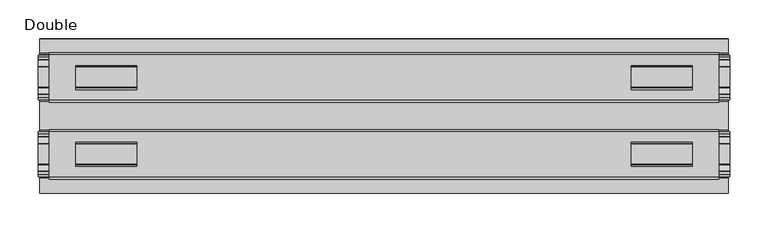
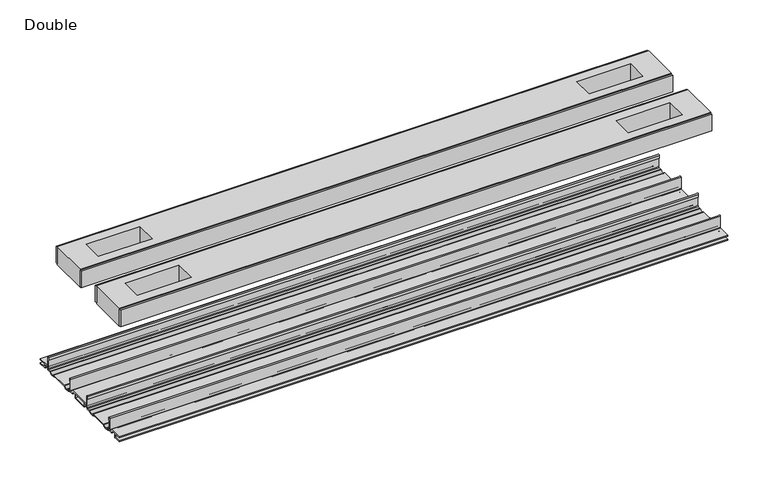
"""IFC4 building model written with IfcOpenShell, lengths in millimetres: proxy geometry, Frame-Teknion-FHCRA-Horizontal_Rail-R2022 : Double."""

from ifc_helpers import new_model, si_unit, point, frame, frame_2d, origin, place, context, project, spatial, polyline, circle_curve, trimmed, segment, composite_curve, outline, extrude, source, transform, mapped, element, save


def double_14c457a7(model_context):
    return source(origin(), model_context, "Body", "SweptSolid", [
        extrude(outline(composite_curve([segment(polyline([(-78.8225461, -7.7516037), (-78.8225461, 9.8607558)]), True, "CONTINUOUS"), segment(trimmed(circle_curve(frame_2d((-77.6033482, 9.8607558)), 1.2191979), [point((-78.8225461, 9.8607558))], [point((-76.3841503, 9.8607558))], False, "CARTESIAN"), True, "CONTINUOUS"), segment(polyline([(-76.3841503, 9.8607558), (-76.3841503, 5.9999563), (-77.6643269, 5.9999563), (-77.6643269, -7.7516037)]), True, "CONTINUOUS"), segment(trimmed(circle_curve(frame_2d((-76.6483061, -7.7516037)), 1.0160208), [point((-77.6643269, -7.7516037))], [point((-76.6548232, -8.7676036))], True, "CARTESIAN"), True, "CONTINUOUS"), segment(polyline([(-76.6548232, -8.7676036), (-72.7118726, -8.7676036), (-71.7985108, -8.968753)]), True, "CONTINUOUS"), segment(trimmed(circle_curve(frame_2d((-67.7735521, -6.1259382)), 4.9276657), [point((-71.7985108, -8.968753))], [point((-63.7485934, -8.968753))], True, "CARTESIAN"), True, "CONTINUOUS"), segment(polyline([(-63.7485934, -8.968753), (-62.8352226, -8.7676036), (-36.7962778, -8.7676036), (-35.8829069, -8.968753)]), True, "CONTINUOUS"), segment(trimmed(circle_curve(frame_2d((-31.8579482, -6.1259382)), 4.9276657), [point((-35.8829069, -8.968753))], [point((-27.8329895, -8.968753))], True, "CARTESIAN"), True, "CONTINUOUS"), segment(polyline([(-27.8329895, -8.968753), (-26.9196277, -8.7676036), (-22.9766772, -8.7676036)]), True, "CONTINUOUS"), segment(trimmed(circle_curve(frame_2d((-22.9831943, -7.7516037)), 1.0160208), [point((-22.9766772, -8.7676036))], [point((-21.9671735, -7.7516037))], True, "CARTESIAN"), True, "CONTINUOUS"), segment(polyline([(-21.9671735, -7.7516037), (-21.9671735, 5.9999563), (-23.2473501, 5.9999563), (-23.2473501, 9.8607558)]), True, "CONTINUOUS"), segment(trimmed(circle_curve(frame_2d((-22.0281522, 9.8607558)), 1.2191979), [point((-23.2473501, 9.8607558))], [point((-20.8089542, 9.8607558))], False, "CARTESIAN"), True, "CONTINUOUS"), segment(polyline([(-20.8089542, 9.8607558), (-20.8089542, -7.7516037)]), True, "CONTINUOUS"), segment(trimmed(circle_curve(frame_2d((-22.9831943, -7.7516037)), 2.17424), [point((-20.8089542, -7.7516037))], [point((-22.9831943, -9.9258438))], False, "CARTESIAN"), True, "CONTINUOUS"), segment(polyline([(-22.9831943, -9.9258438), (-27.274181, -9.9258438)]), True, "CONTINUOUS"), segment(trimmed(circle_curve(frame_2d((-31.8545955, -6.4800016)), 5.7318431), [point((-27.274181, -9.9258438))], [point((-36.43501, -9.9258438))], False, "CARTESIAN"), True, "CONTINUOUS"), segment(polyline([(-36.43501, -9.9258438), (-63.1964904, -9.9258438)]), True, "CONTINUOUS"), segment(trimmed(circle_curve(frame_2d((-67.7769049, -6.4800016)), 5.7318431), [point((-63.1964904, -9.9258438))], [point((-72.3573194, -9.9258438))], False, "CARTESIAN"), True, "CONTINUOUS"), segment(polyline([(-72.3573194, -9.9258438), (-76.6483061, -9.9258438)]), True, "CONTINUOUS"), segment(trimmed(circle_curve(frame_2d((-76.6483061, -7.7516037)), 2.17424), [point((-76.6483061, -9.9258438))], [point((-78.8225461, -7.7516037))], False, "CARTESIAN"), True, "CONTINUOUS")], self_intersect=False)), frame((-448.9044872, 0.0, 0.0), z_axis=(1.0, 0.0, 0.0), x_axis=(0.0, 1.0, 0.0)), (0.0, 0.0, 1.0), 897.8089744),
        extrude(outline(composite_curve([segment(trimmed(circle_curve(frame_2d((77.0293057, -7.7516037)), 2.17424), [point((79.2035458, -7.7516037))], [point((77.0293057, -9.9258438))], False, "CARTESIAN"), True, "CONTINUOUS"), segment(polyline([(77.0293057, -9.9258438), (72.738319, -9.9258438)]), True, "CONTINUOUS"), segment(trimmed(circle_curve(frame_2d((68.1579045, -6.4800016)), 5.7318431), [point((72.738319, -9.9258438))], [point((63.57749, -9.9258438))], False, "CARTESIAN"), True, "CONTINUOUS"), segment(polyline([(63.57749, -9.9258438), (36.8160096, -9.9258438)]), True, "CONTINUOUS"), segment(trimmed(circle_curve(frame_2d((32.2355951, -6.4800016)), 5.7318431), [point((36.8160096, -9.9258438))], [point((27.6551806, -9.9258438))], False, "CARTESIAN"), True, "CONTINUOUS"), segment(polyline([(27.6551806, -9.9258438), (23.3641939, -9.9258438)]), True, "CONTINUOUS"), segment(trimmed(circle_curve(frame_2d((23.3641939, -7.7516037)), 2.17424), [point((23.3641939, -9.9258438))], [point((21.1899539, -7.7516037))], False, "CARTESIAN"), True, "CONTINUOUS"), segment(polyline([(21.1899539, -7.7516037), (21.1899539, 9.8607558)]), True, "CONTINUOUS"), segment(trimmed(circle_curve(frame_2d((22.4091518, 9.8607558)), 1.2191979), [point((21.1899539, 9.8607558))], [point((23.6283497, 9.8607558))], False, "CARTESIAN"), True, "CONTINUOUS"), segment(polyline([(23.6283497, 9.8607558), (23.6283497, 5.9999563), (22.3481731, 5.9999563), (22.3481731, -7.7516037)]), True, "CONTINUOUS"), segment(trimmed(circle_curve(frame_2d((23.3641939, -7.7516037)), 1.0160208), [point((22.3481731, -7.7516037))], [point((23.3576768, -8.7676036))], True, "CARTESIAN"), True, "CONTINUOUS"), segment(polyline([(23.3576768, -8.7676036), (27.3006274, -8.7676036), (28.2139892, -8.968753)]), True, "CONTINUOUS"), segment(trimmed(circle_curve(frame_2d((32.2389479, -6.1259382)), 4.9276657), [point((28.2139892, -8.968753))], [point((36.2639066, -8.968753))], True, "CARTESIAN"), True, "CONTINUOUS"), segment(polyline([(36.2639066, -8.968753), (37.1772774, -8.7676036), (63.2162222, -8.7676036), (64.1295931, -8.968753)]), True, "CONTINUOUS"), segment(trimmed(circle_curve(frame_2d((68.1545518, -6.1259382)), 4.9276657), [point((64.1295931, -8.968753))], [point((72.1795105, -8.968753))], True, "CARTESIAN"), True, "CONTINUOUS"), segment(polyline([(72.1795105, -8.968753), (73.0928723, -8.7676036), (77.0358228, -8.7676036)]), True, "CONTINUOUS"), segment(trimmed(circle_curve(frame_2d((77.0293057, -7.7516037)), 1.0160208), [point((77.0358228, -8.7676036))], [point((78.0453265, -7.7516037))], True, "CARTESIAN"), True, "CONTINUOUS"), segment(polyline([(78.0453265, -7.7516037), (78.0453265, 5.9999563), (76.7651499, 5.9999563), (76.7651499, 9.8607558)]), True, "CONTINUOUS"), segment(trimmed(circle_curve(frame_2d((77.9843478, 9.8607558)), 1.2191979), [point((76.7651499, 9.8607558))], [point((79.2035458, 9.8607558))], False, "CARTESIAN"), True, "CONTINUOUS"), segment(polyline([(79.2035458, 9.8607558), (79.2035458, -7.7516037)]), True, "CONTINUOUS")], self_intersect=False)), frame((-448.9044872, 0.0, 0.0), z_axis=(1.0, 0.0, 0.0), x_axis=(0.0, 1.0, 0.0)), (0.0, 0.0, 1.0), 897.8089744),
        extrude(outline(polyline([(434.8455963, -78.8225461), (434.8455963, -81.9975522), (-434.8455963, -81.9975522), (-434.8455963, -78.8225461), (434.8455963, -78.8225461)])), frame((0.0, 0.0, 149.8401622), z_axis=(0.0, 0.0, 1.0), x_axis=(1.0, 0.0, 0.0)), (0.0, 0.0, 1.0), 25.3999939),
        extrude(outline(polyline([(434.8455963, -17.6339482), (434.8455963, -20.8089542), (-434.8455963, -20.8089542), (-434.8455963, -17.6339482), (434.8455963, -17.6339482)])), frame((0.0, 0.0, 149.8401622), z_axis=(0.0, 0.0, 1.0), x_axis=(1.0, 0.0, 0.0)), (0.0, 0.0, 1.0), 25.3999939),
        extrude(outline(polyline([(434.8455963, 21.1899493), (434.8455963, 18.0149501), (-434.8455963, 18.0149501), (-434.8455963, 21.1899493), (434.8455963, 21.1899493)])), frame((0.0, 0.0, 149.8401622), z_axis=(0.0, 0.0, 1.0), x_axis=(1.0, 0.0, 0.0)), (0.0, 0.0, 1.0), 25.3999939),
        extrude(outline(polyline([(434.8455963, 82.3785496), (434.8455963, 79.2035503), (-434.8455963, 79.2035503), (-434.8455963, 82.3785496), (434.8455963, 82.3785496)])), frame((0.0, 0.0, 149.8401622), z_axis=(0.0, 0.0, 1.0), x_axis=(1.0, 0.0, 0.0)), (0.0, 0.0, 1.0), 25.3999939),
        extrude(outline(polyline([(434.8455963, 79.2035503), (434.8455963, 21.1899493), (-434.8455963, 21.1899493), (-434.8455963, 79.2035503), (434.8455963, 79.2035503)]), holes=[polyline([(400.4285837, 65.3097536), (321.3837719, 65.3097536), (321.3837719, 34.3217468), (400.4285837, 34.3217468), (400.4285837, 65.3097536)]), polyline([(-400.4285837, 65.3097536), (-400.4285837, 34.3217468), (-321.3837719, 34.3217468), (-321.3837719, 65.3097536), (-400.4285837, 65.3097536)])]), frame((0.0, 0.0, 148.4185847), z_axis=(0.0, 0.0, 1.0), x_axis=(1.0, 0.0, 0.0)), (0.0, 0.0, 1.0), 27.9999988),
        extrude(outline(polyline([(434.8455963, -78.8225461), (-434.8455963, -78.8225461), (-434.8455963, -20.8224524), (434.8455963, -20.8224524), (434.8455963, -78.8225461)]), holes=[polyline([(400.4285837, -65.3097536), (400.4285837, -34.3217468), (321.3837719, -34.3217468), (321.3837719, -65.3097536), (400.4285837, -65.3097536)]), polyline([(-400.4285837, -65.3097536), (-321.3837719, -65.3097536), (-321.3837719, -34.3217468), (-400.4285837, -34.3217468), (-400.4285837, -65.3097536)])]), frame((0.0, 0.0, 148.4185847), z_axis=(0.0, 0.0, 1.0), x_axis=(1.0, 0.0, 0.0)), (0.0, 0.0, 1.0), 27.9999988),
        extrude(outline(composite_curve([segment(polyline([(-100.2730922, -13.9898438), (-100.2302711, -12.3388438), (-89.7890007, -12.3388438), (-89.7890007, -7.766844), (-100.2302711, -7.766844), (-100.2730922, -6.1158439), (-81.1847475, -6.1158439)]), True, "CONTINUOUS"), segment(trimmed(circle_curve(frame_2d((-81.1847475, -7.6398436)), 1.5239997), [point((-81.1847475, -6.1158439))], [point((-79.6607478, -7.6398436))], False, "CARTESIAN"), True, "CONTINUOUS"), segment(polyline([(-79.6607478, -7.6398436), (-79.6607478, -9.9258438), (-73.1120844, -9.9258438)]), True, "CONTINUOUS"), segment(trimmed(circle_curve(frame_2d((-67.7735521, -5.2268471)), 7.1119966), [point((-73.1120844, -9.9258438))], [point((-62.4350199, -9.9258438))], True, "CARTESIAN"), True, "CONTINUOUS"), segment(polyline([(-62.4350199, -9.9258438), (-37.1964805, -9.9258438)]), True, "CONTINUOUS"), segment(trimmed(circle_curve(frame_2d((-31.8579482, -5.2268471)), 7.1119966), [point((-37.1964805, -9.9258438))], [point((-26.519416, -9.9258438))], True, "CARTESIAN"), True, "CONTINUOUS"), segment(polyline([(-26.519416, -9.9258438), (-19.9707525, -9.9258438), (-19.9707525, -7.7656583)]), True, "CONTINUOUS"), segment(trimmed(circle_curve(frame_2d((-18.3197518, -7.7656583)), 1.6510007), [point((-19.9707525, -7.7656583))], [point((-18.3823282, -6.1158439))], False, "CARTESIAN"), True, "CONTINUOUS"), segment(polyline([(-18.3823282, -6.1158439), (18.7633278, -6.1158439)]), True, "CONTINUOUS"), segment(trimmed(circle_curve(frame_2d((18.7007515, -7.7656583)), 1.6510007), [point((18.7633278, -6.1158439))], [point((20.3517522, -7.7656583))], False, "CARTESIAN"), True, "CONTINUOUS"), segment(polyline([(20.3517522, -7.7656583), (20.3517522, -9.9258438), (26.9004156, -9.9258438)]), True, "CONTINUOUS"), segment(trimmed(circle_curve(frame_2d((32.2389479, -5.2268471)), 7.1119966), [point((26.9004156, -9.9258438))], [point((37.5774801, -9.9258438))], True, "CARTESIAN"), True, "CONTINUOUS"), segment(polyline([(37.5774801, -9.9258438), (62.8160195, -9.9258438)]), True, "CONTINUOUS"), segment(trimmed(circle_curve(frame_2d((68.1545518, -5.2268471)), 7.1119966), [point((62.8160195, -9.9258438))], [point((73.493084, -9.9258438))], True, "CARTESIAN"), True, "CONTINUOUS"), segment(polyline([(73.493084, -9.9258438), (80.0417475, -9.9258438), (80.0417475, -7.7656583)]), True, "CONTINUOUS"), segment(trimmed(circle_curve(frame_2d((81.6927482, -7.7656583)), 1.6510007), [point((80.0417475, -7.7656583))], [point((81.6301718, -6.1158439))], False, "CARTESIAN"), True, "CONTINUOUS"), segment(polyline([(81.6301718, -6.1158439), (100.6540918, -6.1158439), (100.6112708, -7.766844), (90.1700003, -7.766844), (90.1700003, -12.3388438), (100.6112708, -12.3388438), (100.6540918, -13.9898438), (90.0430018, -13.9898438)]), True, "CONTINUOUS"), segment(trimmed(circle_curve(frame_2d((90.0430018, -12.4658438)), 1.524), [point((90.0430018, -13.9898438))], [point((88.5190019, -12.4658438))], False, "CARTESIAN"), True, "CONTINUOUS"), segment(polyline([(88.5190019, -12.4658438), (88.5190019, -7.766844), (81.692747, -7.766844), (81.692747, -10.0528438)]), True, "CONTINUOUS"), segment(trimmed(circle_curve(frame_2d((80.1687471, -10.0528438)), 1.524), [point((81.692747, -10.0528438))], [point((80.1687471, -11.5768438))], False, "CARTESIAN"), True, "CONTINUOUS"), segment(polyline([(80.1687471, -11.5768438), (73.6626049, -11.5768438)]), True, "CONTINUOUS"), segment(trimmed(circle_curve(frame_2d((68.1545518, -6.4968436)), 7.4930002), [point((73.6626049, -11.5768438))], [point((62.8967468, -11.8354331))], False, "CARTESIAN"), True, "CONTINUOUS"), segment(polyline([(62.8967468, -11.8354331), (37.4967528, -11.8354331)]), True, "CONTINUOUS"), segment(trimmed(circle_curve(frame_2d((32.2389479, -6.4968436)), 7.4930002), [point((37.4967528, -11.8354331))], [point((26.7308947, -11.5768438))], False, "CARTESIAN"), True, "CONTINUOUS"), segment(polyline([(26.7308947, -11.5768438), (20.2247526, -11.5768438)]), True, "CONTINUOUS"), segment(trimmed(circle_curve(frame_2d((20.2247526, -10.0528438)), 1.524), [point((20.2247526, -11.5768438))], [point((18.7007526, -10.0528438))], False, "CARTESIAN"), True, "CONTINUOUS"), segment(polyline([(18.7007526, -10.0528438), (18.7007526, -7.766844), (11.8744978, -7.766844), (11.8744978, -12.4658438)]), True, "CONTINUOUS"), segment(trimmed(circle_curve(frame_2d((10.3504978, -12.4658438)), 1.524), [point((11.8744978, -12.4658438))], [point((10.3504978, -13.9898438))], False, "CARTESIAN"), True, "CONTINUOUS"), segment(polyline([(10.3504978, -13.9898438), (-9.9694982, -13.9898438)]), True, "CONTINUOUS"), segment(trimmed(circle_curve(frame_2d((-9.9694982, -12.4658438)), 1.524), [point((-9.9694982, -13.9898438))], [point((-11.4934981, -12.4658438))], False, "CARTESIAN"), True, "CONTINUOUS"), segment(polyline([(-11.4934981, -12.4658438), (-11.4934981, -7.766844), (-18.319753, -7.766844), (-18.319753, -10.0528438)]), True, "CONTINUOUS"), segment(trimmed(circle_curve(frame_2d((-19.8437529, -10.0528438)), 1.524), [point((-18.319753, -10.0528438))], [point((-19.8437529, -11.5768438))], False, "CARTESIAN"), True, "CONTINUOUS"), segment(polyline([(-19.8437529, -11.5768438), (-26.3498951, -11.5768438)]), True, "CONTINUOUS"), segment(trimmed(circle_curve(frame_2d((-31.8579482, -6.4968436)), 7.4930002), [point((-26.3498951, -11.5768438))], [point((-37.1157532, -11.8354331))], False, "CARTESIAN"), True, "CONTINUOUS"), segment(polyline([(-37.1157532, -11.8354331), (-62.5157472, -11.8354331)]), True, "CONTINUOUS"), segment(trimmed(circle_curve(frame_2d((-67.7735521, -6.4968436)), 7.4930002), [point((-62.5157472, -11.8354331))], [point((-73.2816053, -11.5768438))], False, "CARTESIAN"), True, "CONTINUOUS"), segment(polyline([(-73.2816053, -11.5768438), (-79.7877474, -11.5768438)]), True, "CONTINUOUS"), segment(trimmed(circle_curve(frame_2d((-79.7877474, -10.0528438)), 1.524), [point((-79.7877474, -11.5768438))], [point((-81.3117474, -10.0528438))], False, "CARTESIAN"), True, "CONTINUOUS"), segment(polyline([(-81.3117474, -10.0528438), (-81.3117474, -7.766844), (-88.1380022, -7.766844), (-88.1380022, -12.4658438)]), True, "CONTINUOUS"), segment(trimmed(circle_curve(frame_2d((-89.6620022, -12.4658438)), 1.524), [point((-88.1380022, -12.4658438))], [point((-89.6620022, -13.9898438))], False, "CARTESIAN"), True, "CONTINUOUS"), segment(polyline([(-89.6620022, -13.9898438), (-100.2730922, -13.9898438)]), True, "CONTINUOUS")], self_intersect=False), holes=[polyline([(-9.8424997, -12.3388438), (10.2234993, -12.3388438), (10.2234993, -7.766844), (-9.8424997, -7.766844), (-9.8424997, -12.3388438)])]), frame((-447.2534872, 0.0, 0.0), z_axis=(1.0, 0.0, 0.0), x_axis=(0.0, 1.0, 0.0)), (0.0, 0.0, 1.0), 894.5069744),
    ])


if __name__ == "__main__":
    model = new_model("IFC4")
    model_context = context("Model", 3, world=origin())
    ifc_project = project(units=[si_unit("LENGTHUNIT", "METRE", prefix="MILLI")], contexts=[model_context])
    site = spatial("IfcSite", under=ifc_project)
    building = spatial("IfcBuilding", under=site)
    placement = place(None, origin())
    double_shape = double_14c457a7(model_context)
    element("IfcBuildingElementProxy", 1, Name="Frame-Teknion-FHCRA-Horizontal_Rail-R2022 : Double", ObjectType="Frame-Teknion-FHCRA-Horizontal_Rail-R2022 : Double", at=placement, inside=building, context=model_context, shape_type="MappedRepresentation", body=[
        mapped(double_shape, transform((0.0, 0.0, 0.0), x_axis=(1.0, 0.0, 0.0), y_axis=(0.0, 1.0, 0.0), z_axis=(0.0, 0.0, 1.0))),
    ])
    save(model, "model.ifc")
